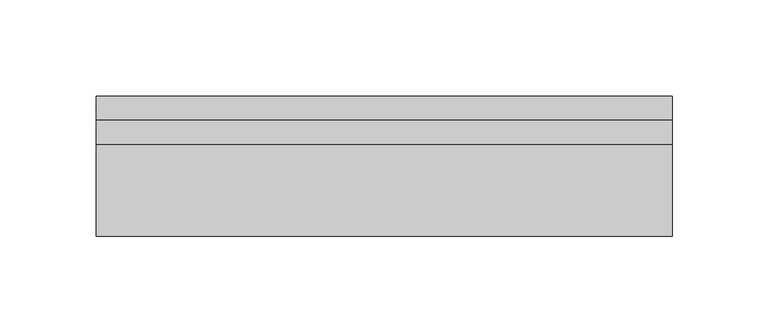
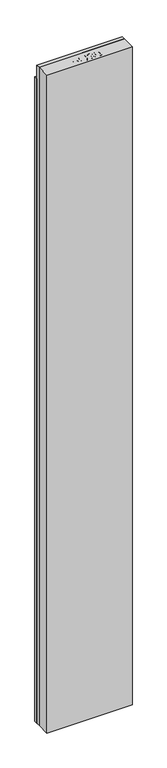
"""IFC4 building model written with IfcOpenShell, lengths in millimetres: proxy geometry, ParedeGeral_Blufab : Parede Geral - Largura 30 cm."""

from ifc_helpers import new_model, si_unit, origin, origin_with_axes, place, context, project, spatial, polyline, outline, extrude, source, transform, mapped, element, save


def generic_models_1b192000(model_context):
    return source(origin(), model_context, "Body", "SweptSolid", [
        extrude(outline(polyline([(300.0, -12.5), (0.0, -12.5), (0.0, 0.0), (300.0, 0.0), (300.0, -12.5)])), origin_with_axes(), (0.0, 0.0, 1.0), 2400.0),
        extrude(outline(polyline([(300.0, -25.0126803), (0.0, -25.0126803), (0.0, -12.5126803), (300.0, -12.5126803), (300.0, -25.0126803)])), origin_with_axes(), (0.0, 0.0, 1.0), 2450.0),
        extrude(outline(polyline([(300.0, -73.0), (0.0, -73.0), (0.0, -25.0126803), (300.0, -25.0126803), (300.0, -73.0)])), origin_with_axes(), (0.0, 0.0, 1.0), 2450.0),
        extrude(outline(polyline([(100.0857709, -36.7632273), (103.8528825, -36.7632273), (103.8528825, -49.0063401), (111.5121857, -49.0063401), (120.2640983, -51.6698058), (122.6884407, -58.1813171), (121.7908086, -62.290559), (119.4179697, -65.2041844), (115.7575439, -66.6131724), (111.2546683, -66.9001204), (100.0857709, -66.9001204), (100.0857709, -36.7632273)]), holes=[polyline([(103.8528825, -52.7734518), (103.8528825, -63.1330087), (111.6446232, -63.1330087), (115.4117348, -62.8754913), (117.9537994, -61.1685189), (118.921329, -58.0488796), (117.2805753, -54.1566881), (111.7329149, -52.7734518), (103.8528825, -52.7734518)])]), origin_with_axes(), (0.0, 0.0, 1.0), 2450.0),
        extrude(outline(polyline([(141.9948878, -48.5354512), (150.470889, -48.5354512), (150.470889, -43.0907976), (146.6559527, -41.0269797), (141.5019259, -40.05945), (135.759288, -41.3433582), (131.6390096, -45.2723379), (130.2226639, -51.8390315), (131.3998863, -57.754574), (133.3386244, -60.6571629), (136.6201318, -62.7908785), (141.4430648, -63.6038977), (145.6773866, -62.8497396), (148.6130849, -60.8411039), (150.3310938, -57.3572614), (153.8038998, -58.3358275), (151.5267103, -63.3206286), (147.3953955, -66.3004727), (141.5019259, -67.3710093), (133.5703901, -65.5242417), (128.2912835, -59.8772531), (126.4555523, -51.6845211), (128.2986411, -43.6720512), (133.7580099, -38.1869307), (141.8035891, -36.2923384), (148.1936994, -37.484276), (154.2380006, -41.0380161), (154.2380006, -52.3025628), (141.9948878, -52.3025628), (141.9948878, -48.5354512)])), origin_with_axes(), (0.0, 0.0, 1.0), 2450.0),
        extrude(outline(polyline([(158.9468901, -44.7683395), (161.9414496, -38.6541408), (168.5486102, -36.2923384), (175.8400313, -39.058811), (178.7242262, -45.7984091), (177.2821288, -50.6985973), (173.1765657, -53.2737713), (176.2667745, -55.7680112), (177.3115593, -59.2408172), (176.2115922, -63.0410382), (173.0330917, -65.866372), (168.4897491, -66.9001204), (162.5006302, -64.803193), (159.4177791, -58.8950082), (163.1848907, -58.4241192), (165.0316583, -61.9557864), (168.6221866, -63.1330087), (172.168569, -61.9668228), (173.5444477, -59.020088), (171.6461766, -55.6944348), (166.7680613, -54.6570076), (166.3486759, -50.8898959), (168.9900686, -51.3019238), (173.272215, -49.7604982), (174.9571146, -45.8646279), (173.2574997, -41.7296343), (168.6810477, -40.05945), (164.792535, -41.2734606), (162.7140018, -45.2392285), (158.9468901, -44.7683395)])), origin_with_axes(), (0.0, 0.0, 1.0), 2450.0),
        extrude(outline(polyline([(182.0204489, -51.5888717), (185.0223659, -39.1618179), (191.9091169, -36.2923384), (197.423668, -37.9441285), (200.7014966, -42.9546813), (201.7977849, -51.5888717), (201.1135244, -58.6706001), (199.3476908, -63.1293299), (196.3089856, -65.9289119), (191.9091169, -66.9001204), (186.4166387, -65.2593667), (183.1277737, -60.2598504), (182.0204489, -51.5888717)]), holes=[polyline([(185.7875605, -51.5962294), (187.6122552, -61.1170154), (191.8649711, -63.1330087), (196.3237008, -60.8447827), (198.0306733, -51.5962294), (196.2648397, -42.2483479), (191.9091169, -40.05945), (187.5533941, -42.2409902), (185.7875605, -51.5962294)])]), origin_with_axes(), (0.0, 0.0, 1.0), 2450.0),
    ])


if __name__ == "__main__":
    model = new_model("IFC4")
    model_context = context("Model", 3, world=origin())
    ifc_project = project(units=[si_unit("LENGTHUNIT", "METRE", prefix="MILLI")], contexts=[model_context])
    site = spatial("IfcSite", under=ifc_project)
    building = spatial("IfcBuilding", under=site)
    placement = place(None, origin())
    generic_models_shape = generic_models_1b192000(model_context)
    element("IfcBuildingElementProxy", 1, Name="ParedeGeral_Blufab : Parede Geral - Largura 30 cm", ObjectType="ParedeGeral_Blufab : Parede Geral - Largura 30 cm", at=placement, inside=building, context=model_context, shape_type="MappedRepresentation", body=[
        mapped(generic_models_shape, transform((0.0, 0.0, 0.0), x_axis=(1.0, 0.0, 0.0), y_axis=(0.0, 1.0, 0.0), z_axis=(0.0, 0.0, 1.0))),
    ])
    save(model, "model.ifc")
